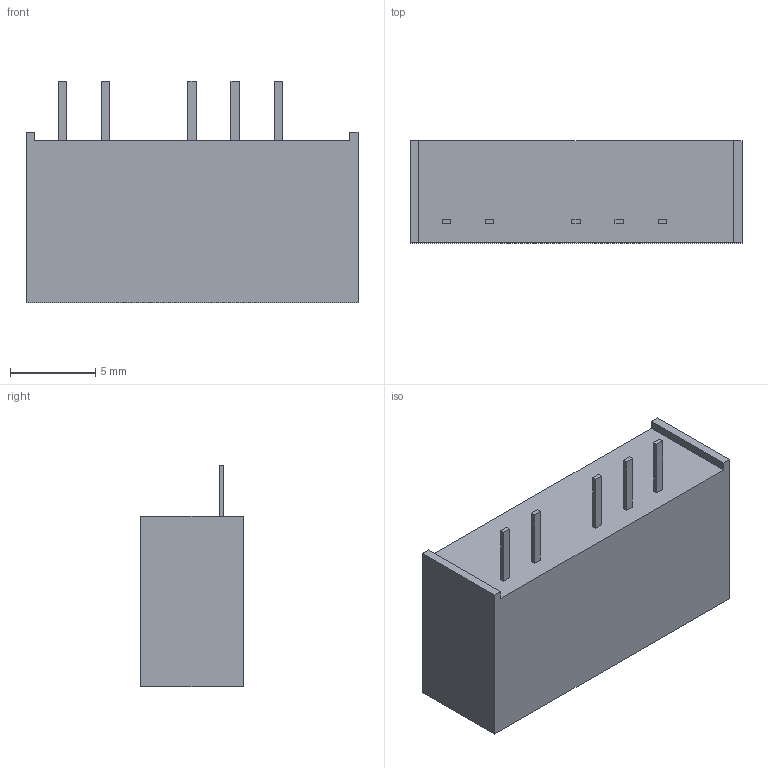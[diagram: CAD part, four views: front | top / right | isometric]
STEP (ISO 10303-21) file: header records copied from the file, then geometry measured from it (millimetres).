
FILE_DESCRIPTION(/* description */ ('Unknown'),/* implementation_level */ '2;1');
FILE_NAME(/* name */ 'ITA(S)',/* time_stamp */ '2017-12-01T09:26:36+08:00',/* author */ ('Unknown'),/* organization */ ('Unknown'),/* preprocessor_version */ 'ST-DEVELOPER v16.7',/* originating_system */ 'DEX',/* authorisation */ $);
FILE_SCHEMA (('AUTOMOTIVE_DESIGN {1 0 10303 214 3 1 1}'));
Length unit declared in the file: millimetre
Products named in the file (1): ITA(S)
Bounding box: 19.5 x 6 x 13 mm (x, y, z)
Volume: 1116.7 mm3; surface area: 757.8 mm2
Topology: 1 solids, 1 shells, 35 faces, 84 edges, 56 vertices
Faces by surface type: plane 35
Entity records: 1028 total; most frequent: CARTESIAN_POINT 176, ORIENTED_EDGE 168, DIRECTION 156, EDGE_CURVE 84, LINE 84, VECTOR 84, VERTEX_POINT 56, EDGE_LOOP 40
